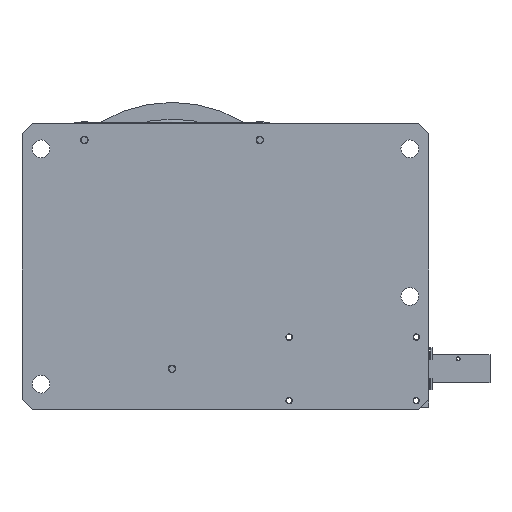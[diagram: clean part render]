
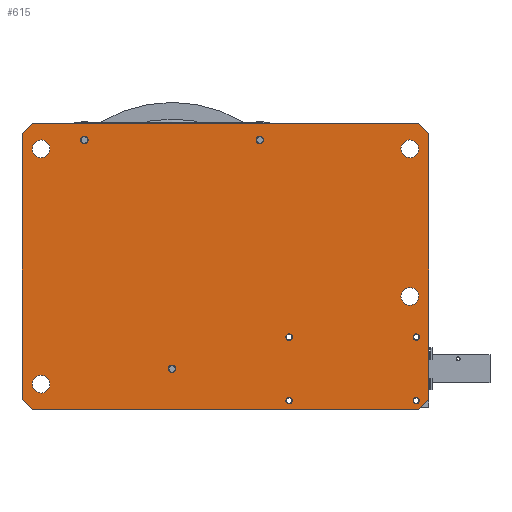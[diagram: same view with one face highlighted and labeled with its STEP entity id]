
A CAD part, front view. The second image highlights one B-rep face of the part: STEP entity #615.
In plain terms, the highlighted planar face has unit normal (0, -1, 0).
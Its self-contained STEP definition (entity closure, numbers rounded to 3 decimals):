
#2=CARTESIAN_POINT('',(50.,0.,-55.5));
#3=DIRECTION('',(0.,1.,0.));
#4=DIRECTION('',(1.,0.,0.));
#5=AXIS2_PLACEMENT_3D('',#2,#3,#4);
#7=CARTESIAN_POINT('',(50.,0.,-55.5));
#8=DIRECTION('',(0.,1.,0.));
#9=DIRECTION('',(-1.,0.,0.));
#10=AXIS2_PLACEMENT_3D('',#7,#8,#9);
#12=CARTESIAN_POINT('',(150.,0.,-55.5));
#13=DIRECTION('',(0.,1.,0.));
#14=DIRECTION('',(1.,0.,0.));
#15=AXIS2_PLACEMENT_3D('',#12,#13,#14);
#17=CARTESIAN_POINT('',(150.,0.,-55.5));
#18=DIRECTION('',(0.,1.,0.));
#19=DIRECTION('',(-1.,0.,0.));
#20=AXIS2_PLACEMENT_3D('',#17,#18,#19);
#22=CARTESIAN_POINT('',(50.,0.,-105.5));
#23=DIRECTION('',(0.,1.,0.));
#24=DIRECTION('',(1.,0.,0.));
#25=AXIS2_PLACEMENT_3D('',#22,#23,#24);
#27=CARTESIAN_POINT('',(50.,0.,-105.5));
#28=DIRECTION('',(0.,1.,0.));
#29=DIRECTION('',(-1.,0.,0.));
#30=AXIS2_PLACEMENT_3D('',#27,#28,#29);
#32=CARTESIAN_POINT('',(150.,0.,-105.5));
#33=DIRECTION('',(0.,1.,0.));
#34=DIRECTION('',(1.,0.,0.));
#35=AXIS2_PLACEMENT_3D('',#32,#33,#34);
#37=CARTESIAN_POINT('',(150.,0.,-105.5));
#38=DIRECTION('',(0.,1.,0.));
#39=DIRECTION('',(-1.,0.,0.));
#40=AXIS2_PLACEMENT_3D('',#37,#38,#39);
#42=CARTESIAN_POINT('',(-42.,0.,-80.5));
#43=DIRECTION('',(0.,1.,0.));
#44=DIRECTION('',(1.,0.,0.));
#45=AXIS2_PLACEMENT_3D('',#42,#43,#44);
#47=CARTESIAN_POINT('',(-42.,0.,-80.5));
#48=DIRECTION('',(0.,1.,0.));
#49=DIRECTION('',(-1.,0.,0.));
#50=AXIS2_PLACEMENT_3D('',#47,#48,#49);
#52=CARTESIAN_POINT('',(-111.,0.,99.5));
#53=DIRECTION('',(0.,1.,0.));
#54=DIRECTION('',(1.,0.,0.));
#55=AXIS2_PLACEMENT_3D('',#52,#53,#54);
#57=CARTESIAN_POINT('',(-111.,0.,99.5));
#58=DIRECTION('',(0.,1.,0.));
#59=DIRECTION('',(-1.,0.,0.));
#60=AXIS2_PLACEMENT_3D('',#57,#58,#59);
#62=CARTESIAN_POINT('',(27.,0.,99.5));
#63=DIRECTION('',(0.,1.,0.));
#64=DIRECTION('',(1.,0.,0.));
#65=AXIS2_PLACEMENT_3D('',#62,#63,#64);
#67=CARTESIAN_POINT('',(27.,0.,99.5));
#68=DIRECTION('',(0.,1.,0.));
#69=DIRECTION('',(-1.,0.,0.));
#70=AXIS2_PLACEMENT_3D('',#67,#68,#69);
#72=CARTESIAN_POINT('',(-145.,0.,92.5));
#73=DIRECTION('',(0.,1.,0.));
#74=DIRECTION('',(1.,0.,0.));
#75=AXIS2_PLACEMENT_3D('',#72,#73,#74);
#77=CARTESIAN_POINT('',(-145.,0.,92.5));
#78=DIRECTION('',(0.,1.,0.));
#79=DIRECTION('',(-1.,0.,0.));
#80=AXIS2_PLACEMENT_3D('',#77,#78,#79);
#82=CARTESIAN_POINT('',(145.,0.,-23.5));
#83=DIRECTION('',(0.,1.,0.));
#84=DIRECTION('',(1.,0.,0.));
#85=AXIS2_PLACEMENT_3D('',#82,#83,#84);
#87=CARTESIAN_POINT('',(145.,0.,-23.5));
#88=DIRECTION('',(0.,1.,0.));
#89=DIRECTION('',(-1.,0.,0.));
#90=AXIS2_PLACEMENT_3D('',#87,#88,#89);
#92=CARTESIAN_POINT('',(145.,0.,92.5));
#93=DIRECTION('',(0.,1.,0.));
#94=DIRECTION('',(1.,0.,0.));
#95=AXIS2_PLACEMENT_3D('',#92,#93,#94);
#97=CARTESIAN_POINT('',(145.,0.,92.5));
#98=DIRECTION('',(0.,1.,0.));
#99=DIRECTION('',(-1.,0.,0.));
#100=AXIS2_PLACEMENT_3D('',#97,#98,#99);
#102=CARTESIAN_POINT('',(-145.,0.,-92.5));
#103=DIRECTION('',(0.,1.,0.));
#104=DIRECTION('',(1.,0.,0.));
#105=AXIS2_PLACEMENT_3D('',#102,#103,#104);
#107=CARTESIAN_POINT('',(-145.,0.,-92.5));
#108=DIRECTION('',(0.,1.,0.));
#109=DIRECTION('',(-1.,0.,0.));
#110=AXIS2_PLACEMENT_3D('',#107,#108,#109);
#112=DIRECTION('',(-0.707,0.,-0.707));
#113=VECTOR('',#112,11.314);
#114=CARTESIAN_POINT('',(-152.,0.,112.5));
#115=LINE('',#114,#113);
#116=DIRECTION('',(1.,0.,0.));
#117=VECTOR('',#116,304.);
#118=CARTESIAN_POINT('',(-152.,0.,112.5));
#119=LINE('',#118,#117);
#120=DIRECTION('',(-0.707,0.,0.707));
#121=VECTOR('',#120,11.314);
#122=CARTESIAN_POINT('',(160.,0.,104.5));
#123=LINE('',#122,#121);
#124=DIRECTION('',(0.,0.,-1.));
#125=VECTOR('',#124,209.);
#126=CARTESIAN_POINT('',(160.,0.,104.5));
#127=LINE('',#126,#125);
#128=DIRECTION('',(0.707,0.,0.707));
#129=VECTOR('',#128,11.314);
#130=CARTESIAN_POINT('',(152.,0.,-112.5));
#131=LINE('',#130,#129);
#132=DIRECTION('',(-1.,0.,0.));
#133=VECTOR('',#132,304.);
#134=CARTESIAN_POINT('',(152.,0.,-112.5));
#135=LINE('',#134,#133);
#136=DIRECTION('',(0.707,0.,-0.707));
#137=VECTOR('',#136,11.314);
#138=CARTESIAN_POINT('',(-160.,0.,-104.5));
#139=LINE('',#138,#137);
#140=DIRECTION('',(0.,0.,1.));
#141=VECTOR('',#140,209.);
#142=CARTESIAN_POINT('',(-160.,0.,-104.5));
#143=LINE('',#142,#141);
#406=CARTESIAN_POINT('',(-152.,0.,112.5));
#407=CARTESIAN_POINT('',(-160.,0.,104.5));
#408=VERTEX_POINT('',#406);
#409=VERTEX_POINT('',#407);
#414=CARTESIAN_POINT('',(160.,0.,104.5));
#415=CARTESIAN_POINT('',(152.,0.,112.5));
#416=VERTEX_POINT('',#414);
#417=VERTEX_POINT('',#415);
#422=CARTESIAN_POINT('',(152.,0.,-112.5));
#423=CARTESIAN_POINT('',(160.,0.,-104.5));
#424=VERTEX_POINT('',#422);
#425=VERTEX_POINT('',#423);
#430=CARTESIAN_POINT('',(-160.,0.,-104.5));
#431=CARTESIAN_POINT('',(-152.,0.,-112.5));
#432=VERTEX_POINT('',#430);
#433=VERTEX_POINT('',#431);
#438=CARTESIAN_POINT('',(52.15,0.,-55.5));
#439=CARTESIAN_POINT('',(47.85,0.,-55.5));
#440=VERTEX_POINT('',#438);
#441=VERTEX_POINT('',#439);
#442=CARTESIAN_POINT('',(152.15,0.,-55.5));
#443=CARTESIAN_POINT('',(147.85,0.,-55.5));
#444=VERTEX_POINT('',#442);
#445=VERTEX_POINT('',#443);
#446=CARTESIAN_POINT('',(52.15,0.,-105.5));
#447=CARTESIAN_POINT('',(47.85,0.,-105.5));
#448=VERTEX_POINT('',#446);
#449=VERTEX_POINT('',#447);
#450=CARTESIAN_POINT('',(152.15,0.,-105.5));
#451=CARTESIAN_POINT('',(147.85,0.,-105.5));
#452=VERTEX_POINT('',#450);
#453=VERTEX_POINT('',#451);
#470=CARTESIAN_POINT('',(-39.45,0.,-80.5));
#471=CARTESIAN_POINT('',(-44.55,0.,-80.5));
#472=VERTEX_POINT('',#470);
#473=VERTEX_POINT('',#471);
#474=CARTESIAN_POINT('',(-108.45,0.,99.5));
#475=CARTESIAN_POINT('',(-113.55,0.,99.5));
#476=VERTEX_POINT('',#474);
#477=VERTEX_POINT('',#475);
#478=CARTESIAN_POINT('',(29.55,0.,99.5));
#479=CARTESIAN_POINT('',(24.45,0.,99.5));
#480=VERTEX_POINT('',#478);
#481=VERTEX_POINT('',#479);
#494=CARTESIAN_POINT('',(-138.,0.,92.5));
#495=CARTESIAN_POINT('',(-152.,0.,92.5));
#496=VERTEX_POINT('',#494);
#497=VERTEX_POINT('',#495);
#498=CARTESIAN_POINT('',(152.,0.,-23.5));
#499=CARTESIAN_POINT('',(138.,0.,-23.5));
#500=VERTEX_POINT('',#498);
#501=VERTEX_POINT('',#499);
#502=CARTESIAN_POINT('',(152.,0.,92.5));
#503=CARTESIAN_POINT('',(138.,0.,92.5));
#504=VERTEX_POINT('',#502);
#505=VERTEX_POINT('',#503);
#518=CARTESIAN_POINT('',(-138.,0.,-92.5));
#519=CARTESIAN_POINT('',(-152.,0.,-92.5));
#520=VERTEX_POINT('',#518);
#521=VERTEX_POINT('',#519);
#526=CARTESIAN_POINT('',(0.,0.,0.));
#527=DIRECTION('',(0.,1.,0.));
#528=DIRECTION('',(1.,0.,0.));
#529=AXIS2_PLACEMENT_3D('',#526,#527,#528);
#530=PLANE('',#529);
#532=ORIENTED_EDGE('',*,*,#531,.F.);
#534=ORIENTED_EDGE('',*,*,#533,.T.);
#536=ORIENTED_EDGE('',*,*,#535,.F.);
#538=ORIENTED_EDGE('',*,*,#537,.T.);
#540=ORIENTED_EDGE('',*,*,#539,.F.);
#542=ORIENTED_EDGE('',*,*,#541,.T.);
#544=ORIENTED_EDGE('',*,*,#543,.F.);
#546=ORIENTED_EDGE('',*,*,#545,.T.);
#547=EDGE_LOOP('',(#532,#534,#536,#538,#540,#542,#544,#546));
#548=FACE_OUTER_BOUND('',#547,.F.);
#550=ORIENTED_EDGE('',*,*,#549,.F.);
#552=ORIENTED_EDGE('',*,*,#551,.F.);
#553=EDGE_LOOP('',(#550,#552));
#554=FACE_BOUND('',#553,.F.);
#556=ORIENTED_EDGE('',*,*,#555,.F.);
#558=ORIENTED_EDGE('',*,*,#557,.F.);
#559=EDGE_LOOP('',(#556,#558));
#560=FACE_BOUND('',#559,.F.);
#562=ORIENTED_EDGE('',*,*,#561,.F.);
#564=ORIENTED_EDGE('',*,*,#563,.F.);
#565=EDGE_LOOP('',(#562,#564));
#566=FACE_BOUND('',#565,.F.);
#568=ORIENTED_EDGE('',*,*,#567,.F.);
#570=ORIENTED_EDGE('',*,*,#569,.F.);
#571=EDGE_LOOP('',(#568,#570));
#572=FACE_BOUND('',#571,.F.);
#574=ORIENTED_EDGE('',*,*,#573,.F.);
#576=ORIENTED_EDGE('',*,*,#575,.F.);
#577=EDGE_LOOP('',(#574,#576));
#578=FACE_BOUND('',#577,.F.);
#580=ORIENTED_EDGE('',*,*,#579,.F.);
#582=ORIENTED_EDGE('',*,*,#581,.F.);
#583=EDGE_LOOP('',(#580,#582));
#584=FACE_BOUND('',#583,.F.);
#586=ORIENTED_EDGE('',*,*,#585,.F.);
#588=ORIENTED_EDGE('',*,*,#587,.F.);
#589=EDGE_LOOP('',(#586,#588));
#590=FACE_BOUND('',#589,.F.);
#592=ORIENTED_EDGE('',*,*,#591,.F.);
#594=ORIENTED_EDGE('',*,*,#593,.F.);
#595=EDGE_LOOP('',(#592,#594));
#596=FACE_BOUND('',#595,.F.);
#598=ORIENTED_EDGE('',*,*,#597,.F.);
#600=ORIENTED_EDGE('',*,*,#599,.F.);
#601=EDGE_LOOP('',(#598,#600));
#602=FACE_BOUND('',#601,.F.);
#604=ORIENTED_EDGE('',*,*,#603,.F.);
#606=ORIENTED_EDGE('',*,*,#605,.F.);
#607=EDGE_LOOP('',(#604,#606));
#608=FACE_BOUND('',#607,.F.);
#610=ORIENTED_EDGE('',*,*,#609,.F.);
#612=ORIENTED_EDGE('',*,*,#611,.F.);
#613=EDGE_LOOP('',(#610,#612));
#614=FACE_BOUND('',#613,.F.);
#615=ADVANCED_FACE('',(#548,#554,#560,#566,#572,#578,#584,#590,#596,#602,#608,
#614),#530,.F.);
#6=CIRCLE('',#5,2.15);
#11=CIRCLE('',#10,2.15);
#16=CIRCLE('',#15,2.15);
#21=CIRCLE('',#20,2.15);
#26=CIRCLE('',#25,2.15);
#31=CIRCLE('',#30,2.15);
#36=CIRCLE('',#35,2.15);
#41=CIRCLE('',#40,2.15);
#46=CIRCLE('',#45,2.55);
#51=CIRCLE('',#50,2.55);
#56=CIRCLE('',#55,2.55);
#61=CIRCLE('',#60,2.55);
#66=CIRCLE('',#65,2.55);
#71=CIRCLE('',#70,2.55);
#76=CIRCLE('',#75,7.);
#81=CIRCLE('',#80,7.);
#86=CIRCLE('',#85,7.);
#91=CIRCLE('',#90,7.);
#96=CIRCLE('',#95,7.);
#101=CIRCLE('',#100,7.);
#106=CIRCLE('',#105,7.);
#111=CIRCLE('',#110,7.);
#531=EDGE_CURVE('',#408,#409,#115,.T.);
#533=EDGE_CURVE('',#408,#417,#119,.T.);
#535=EDGE_CURVE('',#416,#417,#123,.T.);
#537=EDGE_CURVE('',#416,#425,#127,.T.);
#539=EDGE_CURVE('',#424,#425,#131,.T.);
#541=EDGE_CURVE('',#424,#433,#135,.T.);
#543=EDGE_CURVE('',#432,#433,#139,.T.);
#545=EDGE_CURVE('',#432,#409,#143,.T.);
#549=EDGE_CURVE('',#444,#445,#16,.T.);
#551=EDGE_CURVE('',#445,#444,#21,.T.);
#555=EDGE_CURVE('',#448,#449,#26,.T.);
#557=EDGE_CURVE('',#449,#448,#31,.T.);
#561=EDGE_CURVE('',#452,#453,#36,.T.);
#563=EDGE_CURVE('',#453,#452,#41,.T.);
#567=EDGE_CURVE('',#472,#473,#46,.T.);
#569=EDGE_CURVE('',#473,#472,#51,.T.);
#573=EDGE_CURVE('',#476,#477,#56,.T.);
#575=EDGE_CURVE('',#477,#476,#61,.T.);
#579=EDGE_CURVE('',#480,#481,#66,.T.);
#581=EDGE_CURVE('',#481,#480,#71,.T.);
#585=EDGE_CURVE('',#496,#497,#76,.T.);
#587=EDGE_CURVE('',#497,#496,#81,.T.);
#591=EDGE_CURVE('',#500,#501,#86,.T.);
#593=EDGE_CURVE('',#501,#500,#91,.T.);
#597=EDGE_CURVE('',#504,#505,#96,.T.);
#599=EDGE_CURVE('',#505,#504,#101,.T.);
#603=EDGE_CURVE('',#520,#521,#106,.T.);
#605=EDGE_CURVE('',#521,#520,#111,.T.);
#609=EDGE_CURVE('',#440,#441,#6,.T.);
#611=EDGE_CURVE('',#441,#440,#11,.T.);
